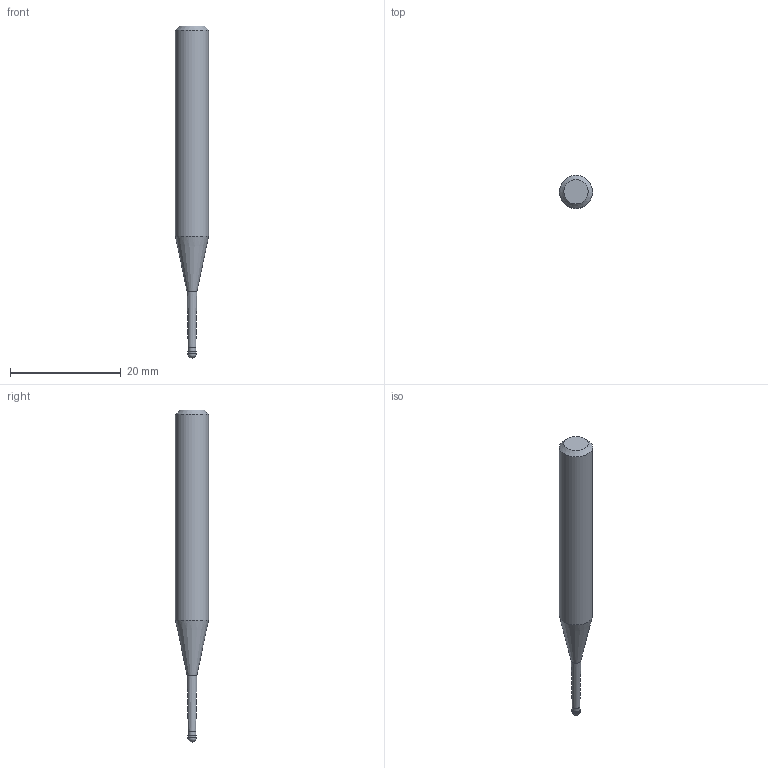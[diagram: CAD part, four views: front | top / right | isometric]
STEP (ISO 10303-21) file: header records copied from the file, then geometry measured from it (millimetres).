
FILE_DESCRIPTION((''),'2;1');
FILE_NAME('C:\Users\nsx150\AppData\Local\Temp\Mastercam 2021\E0ENTZRV18\TEMP.step','2021-09-02T09:56:25',(''),(''),'STEP Write','Mastercam 2021 ... CNC Software, Inc.','');
FILE_SCHEMA(('AUTOMOTIVE_DESIGN'));
Length unit declared in the file: millimetre
Products named in the file (1): None
Bounding box: 6 x 6 x 60 mm (x, y, z)
Volume: 1221.8 mm3; surface area: 921.6 mm2
Topology: 2 solids, 2 shells, 10 faces, 16 edges, 9 vertices
Faces by surface type: plane 3, cylinder 3, cone 3, sphere 1
Full cylindrical faces by diameter (mm): 1.39 x1, 1.5 x1, 6 x1
Entity records: 232 total; most frequent: DIRECTION 40, CARTESIAN_POINT 28, AXIS2_PLACEMENT_3D 20, ORIENTED_EDGE 16, EDGE_LOOP 16, STYLED_ITEM 13, ADVANCED_FACE 10, FACE_BOUND 9
